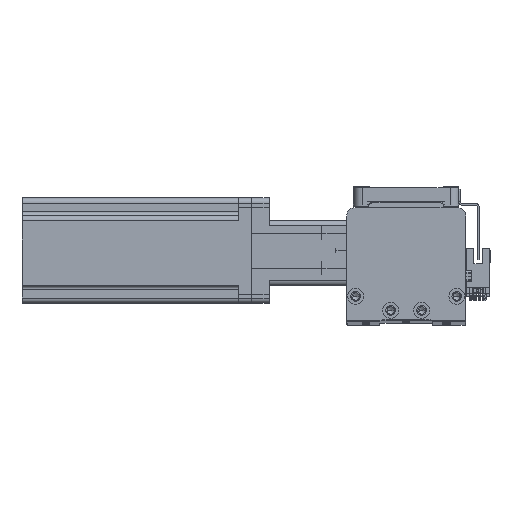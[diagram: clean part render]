
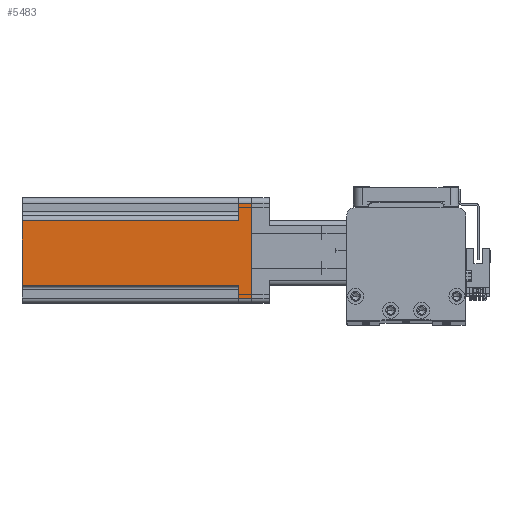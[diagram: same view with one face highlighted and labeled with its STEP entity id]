
A CAD part, top view. The second image highlights one B-rep face of the part: STEP entity #5483.
In plain terms, the highlighted planar face has unit normal (0, 0, 1) as drawn and (-1, 0, 0) by its records, which use the part's own axes.
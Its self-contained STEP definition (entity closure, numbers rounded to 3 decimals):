
#282 = DIRECTION ( 'NONE',  ( 1., 0., 0. ) ) ;
#541 = VERTEX_POINT ( 'NONE', #7984 ) ;
#1035 = CARTESIAN_POINT ( 'NONE',  ( -30., -27., 7.5 ) ) ;
#2281 = VECTOR ( 'NONE', #4865, 1000. ) ;
#2474 = LINE ( 'NONE', #28499, #41564 ) ;
#3389 = EDGE_CURVE ( 'NONE', #32525, #32773, #2474, .T. ) ;
#3840 = PLANE ( 'NONE',  #20756 ) ;
#3911 = DIRECTION ( 'NONE',  ( 0., -1., 0. ) ) ;
#4670 = VERTEX_POINT ( 'NONE', #36762 ) ;
#4865 = DIRECTION ( 'NONE',  ( 0., 0., -1. ) ) ;
#5079 = LINE ( 'NONE', #45410, #42985 ) ;
#5483 = ADVANCED_FACE ( 'NONE', ( #30288 ), #3840, .F. ) ;
#6343 = VECTOR ( 'NONE', #32201, 1000. ) ;
#6512 = CARTESIAN_POINT ( 'NONE',  ( -30., -17., 130.7 ) ) ;
#6806 = DIRECTION ( 'NONE',  ( 0., 1., 0. ) ) ;
#7516 = LINE ( 'NONE', #6512, #6343 ) ;
#7630 = EDGE_CURVE ( 'NONE', #541, #32773, #7516, .T. ) ;
#7809 = EDGE_CURVE ( 'NONE', #541, #39899, #9750, .T. ) ;
#7984 = CARTESIAN_POINT ( 'NONE',  ( -30., -17., 7.5 ) ) ;
#8112 = EDGE_CURVE ( 'NONE', #4670, #39899, #5079, .T. ) ;
#9750 = LINE ( 'NONE', #44348, #28050 ) ;
#11116 = VECTOR ( 'NONE', #11428, 1000. ) ;
#11428 = DIRECTION ( 'NONE',  ( 0., 0., 1. ) ) ;
#11839 = ORIENTED_EDGE ( 'NONE', *, *, #21213, .T. ) ;
#12037 = LINE ( 'NONE', #26659, #2281 ) ;
#12757 = CARTESIAN_POINT ( 'NONE',  ( -30., 27., 0. ) ) ;
#14104 = CARTESIAN_POINT ( 'NONE',  ( -30., 20., 7.5 ) ) ;
#14297 = CARTESIAN_POINT ( 'NONE',  ( -30., -30., 0. ) ) ;
#16488 = LINE ( 'NONE', #32461, #42353 ) ;
#16826 = ORIENTED_EDGE ( 'NONE', *, *, #31407, .T. ) ;
#19870 = CARTESIAN_POINT ( 'NONE',  ( -30., -17., 130.7 ) ) ;
#20756 = AXIS2_PLACEMENT_3D ( 'NONE', #22285, #282, #25951 ) ;
#21213 = EDGE_CURVE ( 'NONE', #21407, #44068, #12037, .T. ) ;
#21264 = ORIENTED_EDGE ( 'NONE', *, *, #8112, .T. ) ;
#21407 = VERTEX_POINT ( 'NONE', #24908 ) ;
#22285 = CARTESIAN_POINT ( 'NONE',  ( -30., -30., 130.7 ) ) ;
#22346 = ORIENTED_EDGE ( 'NONE', *, *, #7630, .T. ) ;
#23422 = DIRECTION ( 'NONE',  ( 0., 0., 1. ) ) ;
#23631 = EDGE_CURVE ( 'NONE', #44068, #4670, #32777, .T. ) ;
#24517 = ORIENTED_EDGE ( 'NONE', *, *, #42112, .F. ) ;
#24908 = CARTESIAN_POINT ( 'NONE',  ( -30., 27., 7.5 ) ) ;
#25951 = DIRECTION ( 'NONE',  ( 0., 0., -1. ) ) ;
#26659 = CARTESIAN_POINT ( 'NONE',  ( -30., 27., 130.7 ) ) ;
#28050 = VECTOR ( 'NONE', #3911, 1000. ) ;
#28499 = CARTESIAN_POINT ( 'NONE',  ( -30., -30., 130.7 ) ) ;
#28727 = CARTESIAN_POINT ( 'NONE',  ( -30., 20., 130.7 ) ) ;
#28792 = EDGE_LOOP ( 'NONE', ( #32197, #22346, #42494, #24517, #16826, #11839, #45055, #21264 ) ) ;
#28873 = DIRECTION ( 'NONE',  ( 0., -1., 0. ) ) ;
#30288 = FACE_OUTER_BOUND ( 'NONE', #28792, .T. ) ;
#31407 = EDGE_CURVE ( 'NONE', #43676, #21407, #16488, .T. ) ;
#32197 = ORIENTED_EDGE ( 'NONE', *, *, #7809, .F. ) ;
#32201 = DIRECTION ( 'NONE',  ( 0., 0., 1. ) ) ;
#32461 = CARTESIAN_POINT ( 'NONE',  ( -30., 30., 7.5 ) ) ;
#32525 = VERTEX_POINT ( 'NONE', #28727 ) ;
#32773 = VERTEX_POINT ( 'NONE', #19870 ) ;
#32777 = LINE ( 'NONE', #14297, #41362 ) ;
#33449 = CARTESIAN_POINT ( 'NONE',  ( -30., 20., 7.5 ) ) ;
#35550 = DIRECTION ( 'NONE',  ( 0., -1., 0. ) ) ;
#36762 = CARTESIAN_POINT ( 'NONE',  ( -30., -27., 0. ) ) ;
#39899 = VERTEX_POINT ( 'NONE', #1035 ) ;
#40430 = LINE ( 'NONE', #33449, #11116 ) ;
#41362 = VECTOR ( 'NONE', #35550, 1000. ) ;
#41564 = VECTOR ( 'NONE', #28873, 1000. ) ;
#42112 = EDGE_CURVE ( 'NONE', #43676, #32525, #40430, .T. ) ;
#42353 = VECTOR ( 'NONE', #6806, 1000. ) ;
#42494 = ORIENTED_EDGE ( 'NONE', *, *, #3389, .F. ) ;
#42985 = VECTOR ( 'NONE', #23422, 1000. ) ;
#43676 = VERTEX_POINT ( 'NONE', #14104 ) ;
#44068 = VERTEX_POINT ( 'NONE', #12757 ) ;
#44348 = CARTESIAN_POINT ( 'NONE',  ( -30., -30., 7.5 ) ) ;
#45055 = ORIENTED_EDGE ( 'NONE', *, *, #23631, .T. ) ;
#45410 = CARTESIAN_POINT ( 'NONE',  ( -30., -27., 130.7 ) ) ;
